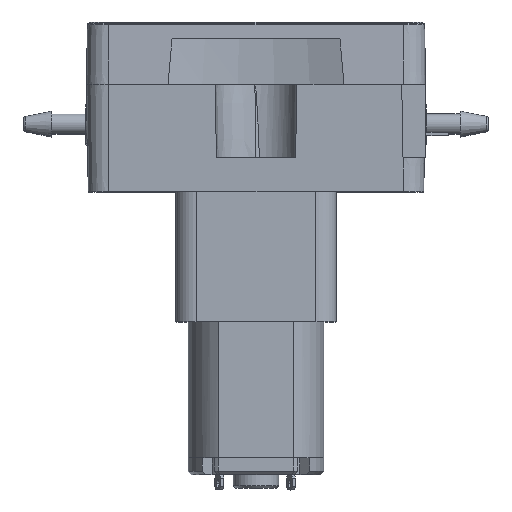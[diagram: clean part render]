
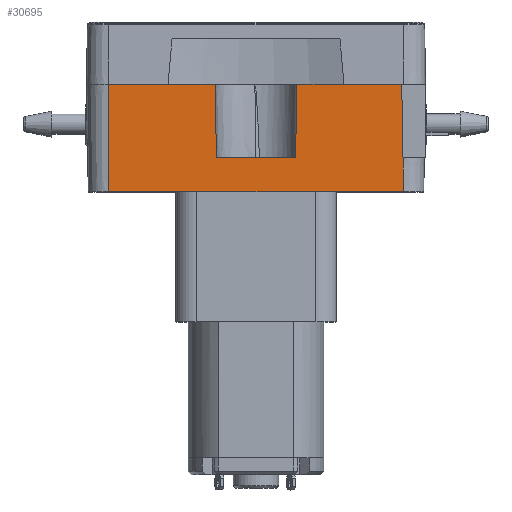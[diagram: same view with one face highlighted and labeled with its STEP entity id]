
A CAD part, top view. The second image highlights one B-rep face of the part: STEP entity #30695.
In plain terms, the highlighted planar face has unit normal (0, -0.018, 1).
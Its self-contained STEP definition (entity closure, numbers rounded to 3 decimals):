
#10 = VECTOR ( 'NONE', #26813, 1000. ) ;
#825 = ORIENTED_EDGE ( 'NONE', *, *, #1907, .F. ) ;
#1391 = EDGE_CURVE ( 'NONE', #11159, #11021, #22015, .T. ) ;
#1636 = EDGE_CURVE ( 'NONE', #4622, #8314, #11114, .T. ) ;
#1907 = EDGE_CURVE ( 'NONE', #3769, #5133, #9864, .T. ) ;
#2998 = DIRECTION ( 'NONE',  ( -1., 0., 0. ) ) ;
#3769 = VERTEX_POINT ( 'NONE', #6885 ) ;
#3992 = ORIENTED_EDGE ( 'NONE', *, *, #27155, .T. ) ;
#4294 = VECTOR ( 'NONE', #30026, 1000. ) ;
#4622 = VERTEX_POINT ( 'NONE', #14849 ) ;
#4738 = PLANE ( 'NONE',  #31994 ) ;
#5133 = VERTEX_POINT ( 'NONE', #11341 ) ;
#5426 = DIRECTION ( 'NONE',  ( -1., 0., 0. ) ) ;
#6492 = CARTESIAN_POINT ( 'NONE',  ( 12.887, 6.5, 9.5 ) ) ;
#6885 = CARTESIAN_POINT ( 'NONE',  ( -13., -3., 9.334 ) ) ;
#7221 = VERTEX_POINT ( 'NONE', #20833 ) ;
#7371 = EDGE_CURVE ( 'NONE', #4622, #11159, #36025, .T. ) ;
#8220 = CARTESIAN_POINT ( 'NONE',  ( -3.499, -0.045, 9.386 ) ) ;
#8314 = VERTEX_POINT ( 'NONE', #18943 ) ;
#8565 = VECTOR ( 'NONE', #19684, 1000. ) ;
#9864 = LINE ( 'NONE', #12491, #30025 ) ;
#10160 = VERTEX_POINT ( 'NONE', #14153 ) ;
#10436 = EDGE_CURVE ( 'NONE', #7221, #3769, #25761, .T. ) ;
#10745 = DIRECTION ( 'NONE',  ( 0.017, -1., -0.017 ) ) ;
#11021 = VERTEX_POINT ( 'NONE', #16658 ) ;
#11114 = LINE ( 'NONE', #22562, #17680 ) ;
#11159 = VERTEX_POINT ( 'NONE', #6492 ) ;
#11341 = CARTESIAN_POINT ( 'NONE',  ( -13., 6.5, 9.5 ) ) ;
#11493 = ORIENTED_EDGE ( 'NONE', *, *, #26724, .T. ) ;
#12297 = EDGE_LOOP ( 'NONE', ( #11493, #19694, #31005, #26092, #3992, #19516, #20536, #825, #25654 ) ) ;
#12344 = LINE ( 'NONE', #15348, #10 ) ;
#12491 = CARTESIAN_POINT ( 'NONE',  ( -13., 6.5, 9.5 ) ) ;
#12921 = CARTESIAN_POINT ( 'NONE',  ( -14.5, 6.5, 9.5 ) ) ;
#13856 = LINE ( 'NONE', #8220, #8565 ) ;
#14153 = CARTESIAN_POINT ( 'NONE',  ( -3.613, 6.5, 9.5 ) ) ;
#14849 = CARTESIAN_POINT ( 'NONE',  ( 3.613, 6.5, 9.5 ) ) ;
#15348 = CARTESIAN_POINT ( 'NONE',  ( 13., 0., 9.387 ) ) ;
#15828 = CARTESIAN_POINT ( 'NONE',  ( 13., 0.002, 9.387 ) ) ;
#16135 = DIRECTION ( 'NONE',  ( 1., 0., 0. ) ) ;
#16658 = CARTESIAN_POINT ( 'NONE',  ( 13., 0., 9.387 ) ) ;
#17305 = CARTESIAN_POINT ( 'NONE',  ( 13., -3., 9.334 ) ) ;
#17680 = VECTOR ( 'NONE', #34030, 1000. ) ;
#18763 = LINE ( 'NONE', #33229, #31862 ) ;
#18846 = FACE_OUTER_BOUND ( 'NONE', #12297, .T. ) ;
#18943 = CARTESIAN_POINT ( 'NONE',  ( 3.5, 0., 9.387 ) ) ;
#19516 = ORIENTED_EDGE ( 'NONE', *, *, #23899, .F. ) ;
#19684 = DIRECTION ( 'NONE',  ( 0.017, -1., -0.017 ) ) ;
#19694 = ORIENTED_EDGE ( 'NONE', *, *, #1391, .F. ) ;
#20536 = ORIENTED_EDGE ( 'NONE', *, *, #21497, .F. ) ;
#20833 = CARTESIAN_POINT ( 'NONE',  ( 13., -3., 9.334 ) ) ;
#20857 = DIRECTION ( 'NONE',  ( 0., 1., 0.017 ) ) ;
#21497 = EDGE_CURVE ( 'NONE', #5133, #10160, #18763, .T. ) ;
#22015 = LINE ( 'NONE', #15828, #25677 ) ;
#22562 = CARTESIAN_POINT ( 'NONE',  ( 3.608, 6.184, 9.494 ) ) ;
#23162 = VERTEX_POINT ( 'NONE', #25411 ) ;
#23899 = EDGE_CURVE ( 'NONE', #10160, #23162, #13856, .T. ) ;
#24216 = VECTOR ( 'NONE', #20857, 1000. ) ;
#25411 = CARTESIAN_POINT ( 'NONE',  ( -3.5, 0., 9.387 ) ) ;
#25654 = ORIENTED_EDGE ( 'NONE', *, *, #10436, .F. ) ;
#25677 = VECTOR ( 'NONE', #10745, 1000. ) ;
#25761 = LINE ( 'NONE', #17305, #25963 ) ;
#25963 = VECTOR ( 'NONE', #2998, 1000. ) ;
#26092 = ORIENTED_EDGE ( 'NONE', *, *, #1636, .T. ) ;
#26724 = EDGE_CURVE ( 'NONE', #7221, #11021, #30051, .T. ) ;
#26813 = DIRECTION ( 'NONE',  ( -1., 0., 0. ) ) ;
#27155 = EDGE_CURVE ( 'NONE', #8314, #23162, #12344, .T. ) ;
#30025 = VECTOR ( 'NONE', #32770, 1000. ) ;
#30026 = DIRECTION ( 'NONE',  ( 1., 0., 0. ) ) ;
#30051 = LINE ( 'NONE', #35314, #24216 ) ;
#30695 = ADVANCED_FACE ( 'NONE', ( #18846 ), #4738, .T. ) ;
#31005 = ORIENTED_EDGE ( 'NONE', *, *, #7371, .F. ) ;
#31862 = VECTOR ( 'NONE', #16135, 1000. ) ;
#31994 = AXIS2_PLACEMENT_3D ( 'NONE', #34180, #33304, #5426 ) ;
#32770 = DIRECTION ( 'NONE',  ( 0., 1., 0.017 ) ) ;
#33229 = CARTESIAN_POINT ( 'NONE',  ( -14.5, 6.5, 9.5 ) ) ;
#33304 = DIRECTION ( 'NONE',  ( 0., -0.017, 1. ) ) ;
#34030 = DIRECTION ( 'NONE',  ( -0.017, -1., -0.017 ) ) ;
#34180 = CARTESIAN_POINT ( 'NONE',  ( -14.5, 6.5, 9.5 ) ) ;
#35314 = CARTESIAN_POINT ( 'NONE',  ( 13., 6.5, 9.5 ) ) ;
#36025 = LINE ( 'NONE', #12921, #4294 ) ;
